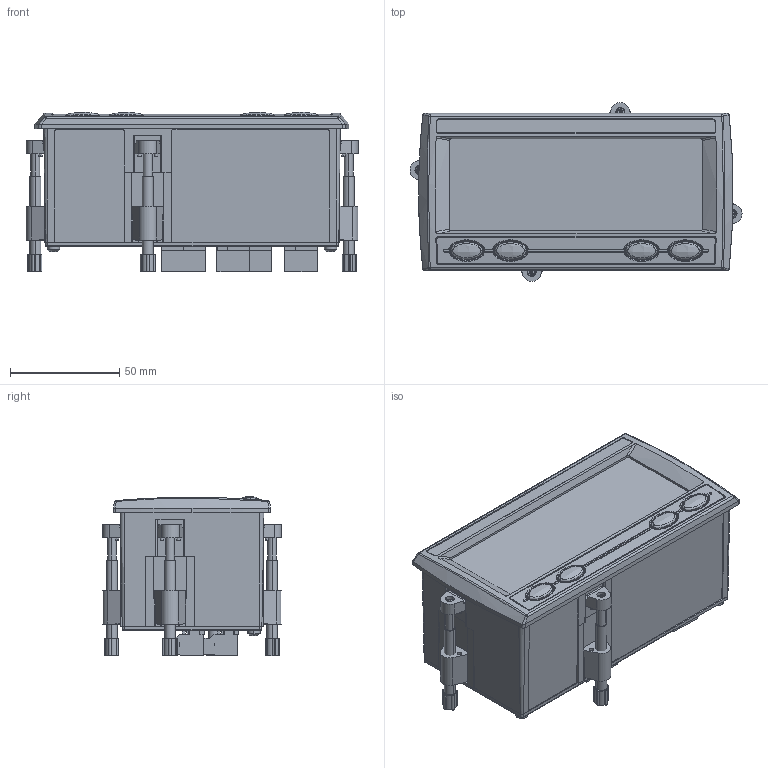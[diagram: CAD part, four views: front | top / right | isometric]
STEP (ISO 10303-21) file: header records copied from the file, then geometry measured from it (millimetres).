
FILE_DESCRIPTION (( 'STEP AP214' ), '1' );
FILE_NAME ('XX8E.STEP', '2017-07-27T13:39:09', ( '' ), ( '' ), 'SwSTEP 2.0', 'SolidWorks 2016', '' );
FILE_SCHEMA (( 'AUTOMOTIVE_DESIGN' ));
Length unit declared in the file: millimetre
Products named in the file (1): XX8E
Bounding box: 151.86 x 81.81 x 72.98 mm (x, y, z)
Surface area: 73102.8 mm2 (no closed solid volume)
Topology: 0 solids, 67 shells, 906 faces, 3196 edges, 2342 vertices
Faces by surface type: plane 447, cylinder 316, bspline 104, cone 23, sphere 8, torus 8
Entity records: 53097 total; most frequent: CARTESIAN_POINT 16879, DIRECTION 5243, ORIENTED_EDGE 4992, EDGE_CURVE 3196, VERTEX_POINT 2342, LINE 1845, VECTOR 1845, AXIS2_PLACEMENT_3D 1699
